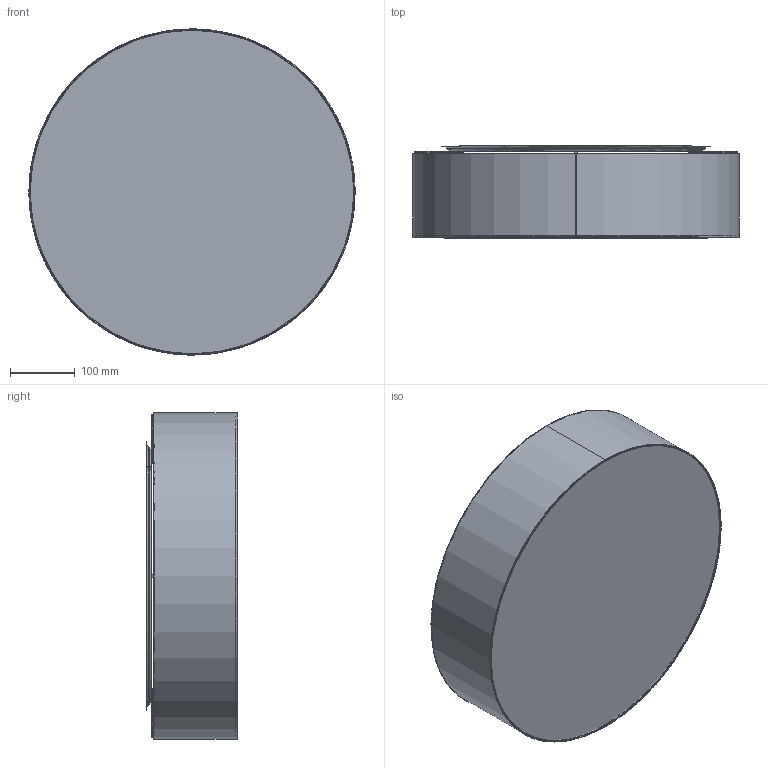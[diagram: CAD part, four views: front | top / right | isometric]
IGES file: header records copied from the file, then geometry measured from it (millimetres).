
Start section: SolidWorks IGES file using analytic representation for surfaces
Global section: file name: Z:\Modele 3D_WWW\_KOLEKCJE_WWW\TURDA\TURDA-8952-8953\TURDA-8952-8953.IGS; native system: SolidWorks 2020; preprocessor: SolidWorks 2020; author: gabriela.tworek; date: 210510.073800; units: millimetre
Bounding box: 502.17 x 141.19 x 502.17 mm (x, y, z)
Surface area: 876908.8 mm2 (no closed solid volume)
Topology: 0 solids, 0 shells, 285 faces, 4365 edges, 4305 vertices
Faces by surface type: revolution 143, bspline 142
